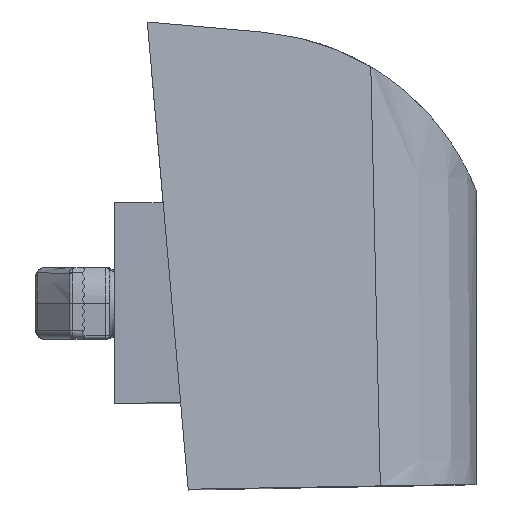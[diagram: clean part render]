
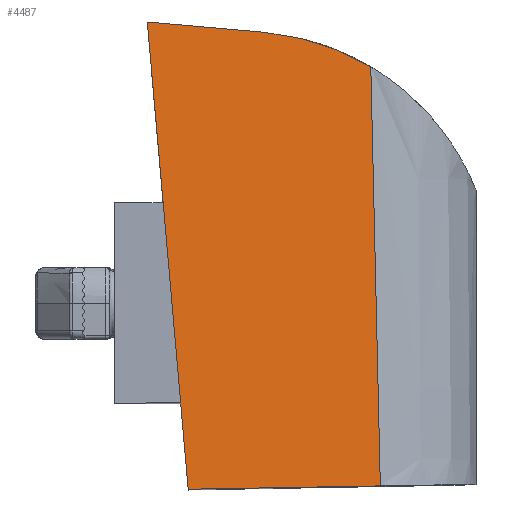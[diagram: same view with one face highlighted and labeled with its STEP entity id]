
A CAD part, top view. The second image highlights one B-rep face of the part: STEP entity #4487.
In plain terms, the highlighted planar face has unit normal (0.139, 0.012, 0.99).
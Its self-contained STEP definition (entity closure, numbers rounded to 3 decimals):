
#86 = CARTESIAN_POINT ( 'NONE',  ( 49.666, 54.057, 23.584 ) ) ;
#141 = EDGE_CURVE ( 'NONE', #3915, #4064, #3828, .T. ) ;
#223 = CARTESIAN_POINT ( 'NONE',  ( 38.743, 57.089, 25.077 ) ) ;
#265 = CARTESIAN_POINT ( 'NONE',  ( 44.378, 56.048, 24.301 ) ) ;
#796 = CARTESIAN_POINT ( 'NONE',  ( 45.308, 55.764, 24.174 ) ) ;
#882 = LINE ( 'NONE', #8165, #1322 ) ;
#920 = CARTESIAN_POINT ( 'NONE',  ( 24.899, 58.3, 27. ) ) ;
#1049 = LINE ( 'NONE', #8603, #7128 ) ;
#1153 = DIRECTION ( 'NONE',  ( 0.087, -0.996, 0. ) ) ;
#1158 = CARTESIAN_POINT ( 'NONE',  ( 28.863, 13., 27. ) ) ;
#1241 = CARTESIAN_POINT ( 'NONE',  ( 29.772, 2.605, 27. ) ) ;
#1322 = VECTOR ( 'NONE', #7671, 1000. ) ;
#1339 = EDGE_CURVE ( 'NONE', #7216, #7058, #882, .T. ) ;
#1444 = CARTESIAN_POINT ( 'NONE',  ( 52.413, 11.455, 23.722 ) ) ;
#1475 = EDGE_LOOP ( 'NONE', ( #3350, #2219, #5052, #2387, #6435, #7844, #7472 ) ) ;
#1629 = CARTESIAN_POINT ( 'NONE',  ( 52.13, 23.913, 23.609 ) ) ;
#1942 = CARTESIAN_POINT ( 'NONE',  ( 26.78, 36.8, 27. ) ) ;
#2146 = CARTESIAN_POINT ( 'NONE',  ( 40.004, 56.978, 24.901 ) ) ;
#2171 = CARTESIAN_POINT ( 'NONE',  ( 52.224, 19.761, 23.646 ) ) ;
#2219 = ORIENTED_EDGE ( 'NONE', *, *, #8247, .T. ) ;
#2240 = CARTESIAN_POINT ( 'NONE',  ( 44.924, 55.885, 24.226 ) ) ;
#2283 = CARTESIAN_POINT ( 'NONE',  ( 47.619, 55.019, 23.859 ) ) ;
#2387 = ORIENTED_EDGE ( 'NONE', *, *, #1339, .F. ) ;
#2414 = B_SPLINE_CURVE_WITH_KNOTS ( 'NONE', 3,
 ( #6349, #4826, #7731, #1629, #2171, #7554, #1444, #4149, #7602, #6893 ),
 .UNSPECIFIED., .F., .F.,
 ( 4, 2, 2, 2, 4 ),
 ( 0., 0.5, 0.75, 0.875, 1. ),
 .UNSPECIFIED. ) ;
#2790 = LINE ( 'NONE', #3404, #3893 ) ;
#2867 = DIRECTION ( 'NONE',  ( 0.99, 0.017, -0.139 ) ) ;
#2972 = CARTESIAN_POINT ( 'NONE',  ( 44.129, 56.118, 24.335 ) ) ;
#3064 = CARTESIAN_POINT ( 'NONE',  ( 38.743, 57.089, 25.077 ) ) ;
#3164 = AXIS2_PLACEMENT_3D ( 'NONE', #1241, #6679, #3197 ) ;
#3197 = DIRECTION ( 'NONE',  ( 0.087, -0.996, 0. ) ) ;
#3350 = ORIENTED_EDGE ( 'NONE', *, *, #141, .F. ) ;
#3404 = CARTESIAN_POINT ( 'NONE',  ( 34.389, 57.47, 25.682 ) ) ;
#3667 = EDGE_CURVE ( 'NONE', #8398, #7058, #4533, .T. ) ;
#3757 = DIRECTION ( 'NONE',  ( 0.087, -0.996, 0. ) ) ;
#3828 = B_SPLINE_CURVE_WITH_KNOTS ( 'NONE', 3,
 ( #223, #2146, #4844, #6862, #7702, #2972, #265, #5693, #2240, #8427, #6192, #5606, #796, #7570, #5652, #2283, #86, #6275 ),
 .UNSPECIFIED., .F., .F.,
 ( 4, 2, 2, 2, 1, 1, 1, 1, 2, 2, 4 ),
 ( 0., 0.25, 0.375, 0.438, 0.469, 0.484, 0.492, 0.496, 0.498, 0.5, 1. ),
 .UNSPECIFIED. ) ;
#3893 = VECTOR ( 'NONE', #6855, 1000. ) ;
#3915 = VERTEX_POINT ( 'NONE', #3064 ) ;
#4064 = VERTEX_POINT ( 'NONE', #4538 ) ;
#4149 = CARTESIAN_POINT ( 'NONE',  ( 52.508, 7.302, 23.759 ) ) ;
#4487 = ADVANCED_FACE ( 'NONE', ( #8014 ), #6052, .T. ) ;
#4533 = LINE ( 'NONE', #8670, #7201 ) ;
#4538 = CARTESIAN_POINT ( 'NONE',  ( 51.469, 52.984, 23.345 ) ) ;
#4725 = VERTEX_POINT ( 'NONE', #5400 ) ;
#4826 = CARTESIAN_POINT ( 'NONE',  ( 51.657, 44.678, 23.42 ) ) ;
#4831 = LINE ( 'NONE', #8829, #7596 ) ;
#4844 = CARTESIAN_POINT ( 'NONE',  ( 41.188, 56.795, 24.738 ) ) ;
#5052 = ORIENTED_EDGE ( 'NONE', *, *, #3667, .T. ) ;
#5400 = CARTESIAN_POINT ( 'NONE',  ( 29.759, 2.75, 27. ) ) ;
#5606 = CARTESIAN_POINT ( 'NONE',  ( 45.286, 55.771, 24.177 ) ) ;
#5652 = CARTESIAN_POINT ( 'NONE',  ( 45.328, 55.757, 24.171 ) ) ;
#5693 = CARTESIAN_POINT ( 'NONE',  ( 44.744, 55.94, 24.251 ) ) ;
#6052 = PLANE ( 'NONE',  #3164 ) ;
#6192 = CARTESIAN_POINT ( 'NONE',  ( 45.235, 55.787, 24.184 ) ) ;
#6275 = CARTESIAN_POINT ( 'NONE',  ( 51.469, 52.984, 23.345 ) ) ;
#6349 = CARTESIAN_POINT ( 'NONE',  ( 51.469, 52.984, 23.345 ) ) ;
#6357 = EDGE_CURVE ( 'NONE', #4725, #8542, #4831, .T. ) ;
#6435 = ORIENTED_EDGE ( 'NONE', *, *, #8665, .T. ) ;
#6575 = CARTESIAN_POINT ( 'NONE',  ( 52.602, 3.149, 23.797 ) ) ;
#6679 = DIRECTION ( 'NONE',  ( 0.139, 0.012, 0.99 ) ) ;
#6855 = DIRECTION ( 'NONE',  ( -0.987, 0.086, 0.137 ) ) ;
#6862 = CARTESIAN_POINT ( 'NONE',  ( 42.837, 56.449, 24.511 ) ) ;
#6893 = CARTESIAN_POINT ( 'NONE',  ( 52.602, 3.149, 23.797 ) ) ;
#7058 = VERTEX_POINT ( 'NONE', #1942 ) ;
#7128 = VECTOR ( 'NONE', #3757, 1000. ) ;
#7201 = VECTOR ( 'NONE', #1153, 1000. ) ;
#7216 = VERTEX_POINT ( 'NONE', #1158 ) ;
#7472 = ORIENTED_EDGE ( 'NONE', *, *, #8831, .F. ) ;
#7554 = CARTESIAN_POINT ( 'NONE',  ( 52.366, 13.531, 23.703 ) ) ;
#7570 = CARTESIAN_POINT ( 'NONE',  ( 45.323, 55.759, 24.172 ) ) ;
#7596 = VECTOR ( 'NONE', #2867, 1000. ) ;
#7602 = CARTESIAN_POINT ( 'NONE',  ( 52.553, 5.225, 23.777 ) ) ;
#7671 = DIRECTION ( 'NONE',  ( -0.087, 0.996, 0. ) ) ;
#7702 = CARTESIAN_POINT ( 'NONE',  ( 43.366, 56.321, 24.439 ) ) ;
#7731 = CARTESIAN_POINT ( 'NONE',  ( 51.846, 36.372, 23.496 ) ) ;
#7844 = ORIENTED_EDGE ( 'NONE', *, *, #6357, .T. ) ;
#8014 = FACE_OUTER_BOUND ( 'NONE', #1475, .T. ) ;
#8165 = CARTESIAN_POINT ( 'NONE',  ( 28.863, 13., 27. ) ) ;
#8247 = EDGE_CURVE ( 'NONE', #3915, #8398, #2790, .T. ) ;
#8398 = VERTEX_POINT ( 'NONE', #920 ) ;
#8427 = CARTESIAN_POINT ( 'NONE',  ( 45.132, 55.82, 24.198 ) ) ;
#8542 = VERTEX_POINT ( 'NONE', #6575 ) ;
#8603 = CARTESIAN_POINT ( 'NONE',  ( 29.772, 2.605, 27. ) ) ;
#8665 = EDGE_CURVE ( 'NONE', #7216, #4725, #1049, .T. ) ;
#8670 = CARTESIAN_POINT ( 'NONE',  ( 29.772, 2.605, 27. ) ) ;
#8829 = CARTESIAN_POINT ( 'NONE',  ( 29.769, 2.75, 26.999 ) ) ;
#8831 = EDGE_CURVE ( 'NONE', #4064, #8542, #2414, .T. ) ;
